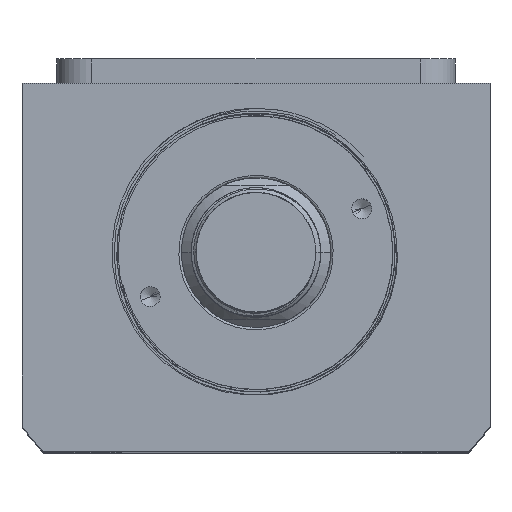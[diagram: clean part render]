
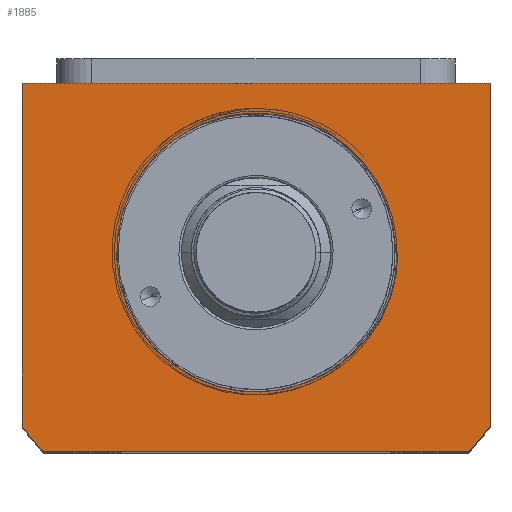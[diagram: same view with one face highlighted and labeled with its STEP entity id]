
A CAD part, top view. The second image highlights one B-rep face of the part: STEP entity #1885.
In plain terms, the highlighted planar face has unit normal (0, 0, 1).
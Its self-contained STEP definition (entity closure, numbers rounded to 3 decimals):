
#5 = CARTESIAN_POINT ( 'NONE',  ( 24.898, -13.504, 75. ) ) ;
#387 = CIRCLE ( 'NONE', #11522, 58.5 ) ;
#429 = ORIENTED_EDGE ( 'NONE', *, *, #2727, .T. ) ;
#462 = EDGE_CURVE ( 'NONE', #6340, #925, #7256, .T. ) ;
#925 = VERTEX_POINT ( 'NONE', #1609 ) ;
#1097 = CARTESIAN_POINT ( 'NONE',  ( 0., 0., 75. ) ) ;
#1311 = CARTESIAN_POINT ( 'NONE',  ( 15.3, -23.593, 75. ) ) ;
#1431 = ORIENTED_EDGE ( 'NONE', *, *, #16345, .F. ) ;
#1609 = CARTESIAN_POINT ( 'NONE',  ( -47., 34., 75. ) ) ;
#1779 = CARTESIAN_POINT ( 'NONE',  ( 28., 0., 75. ) ) ;
#1885 = ADVANCED_FACE ( 'NONE', ( #17046, #8631 ), #4921, .T. ) ;
#2266 = CARTESIAN_POINT ( 'NONE',  ( 47., -34.832, 75. ) ) ;
#2357 = EDGE_CURVE ( 'NONE', #17658, #16014, #14299, .T. ) ;
#2514 = CARTESIAN_POINT ( 'NONE',  ( 47., 34., 75. ) ) ;
#2693 = CARTESIAN_POINT ( 'NONE',  ( -47., 34., 75. ) ) ;
#2727 = EDGE_CURVE ( 'NONE', #925, #11358, #5789, .T. ) ;
#2851 = CARTESIAN_POINT ( 'NONE',  ( 10.89, -25.816, 75. ) ) ;
#2913 = CARTESIAN_POINT ( 'NONE',  ( 27.555, -6.99, 75. ) ) ;
#3224 = AXIS2_PLACEMENT_3D ( 'NONE', #17056, #17191, #3704 ) ;
#3226 = ORIENTED_EDGE ( 'NONE', *, *, #9076, .T. ) ;
#3389 = CARTESIAN_POINT ( 'NONE',  ( -47., -34.832, 75. ) ) ;
#3441 = CARTESIAN_POINT ( 'NONE',  ( 42.688, -40., 75. ) ) ;
#3704 = DIRECTION ( 'NONE',  ( 1., 0., 0. ) ) ;
#3953 = VECTOR ( 'NONE', #14638, 1000. ) ;
#4137 = DIRECTION ( 'NONE',  ( 0., 0., 1. ) ) ;
#4166 = EDGE_CURVE ( 'NONE', #10081, #6340, #11636, .T. ) ;
#4204 = DIRECTION ( 'NONE',  ( 1., 0., 0. ) ) ;
#4496 = VERTEX_POINT ( 'NONE', #12331 ) ;
#4510 = CARTESIAN_POINT ( 'NONE',  ( 0., 0., 75. ) ) ;
#4921 = PLANE ( 'NONE',  #3224 ) ;
#5153 = ORIENTED_EDGE ( 'NONE', *, *, #12049, .T. ) ;
#5613 = CARTESIAN_POINT ( 'NONE',  ( 28.485, -0.71, 75. ) ) ;
#5789 = LINE ( 'NONE', #13562, #7915 ) ;
#5995 = CARTESIAN_POINT ( 'NONE',  ( 16.467, -22.819, 75. ) ) ;
#6317 = CIRCLE ( 'NONE', #13503, 28. ) ;
#6340 = VERTEX_POINT ( 'NONE', #2514 ) ;
#6570 = VECTOR ( 'NONE', #12481, 1000. ) ;
#6636 = DIRECTION ( 'NONE',  ( 0., 1., 0. ) ) ;
#7136 = CARTESIAN_POINT ( 'NONE',  ( 28.449, -1.419, 75. ) ) ;
#7256 = LINE ( 'NONE', #2693, #3953 ) ;
#7414 = ORIENTED_EDGE ( 'NONE', *, *, #4166, .T. ) ;
#7492 = DIRECTION ( 'NONE',  ( 0., 0., 1. ) ) ;
#7516 = CARTESIAN_POINT ( 'NONE',  ( 11.542, -25.544, 75. ) ) ;
#7866 = LINE ( 'NONE', #16981, #10910 ) ;
#7915 = VECTOR ( 'NONE', #15074, 1000. ) ;
#7970 = DIRECTION ( 'NONE',  ( -1., 0., 0. ) ) ;
#8114 = EDGE_CURVE ( 'NONE', #4496, #18858, #12419, .T. ) ;
#8349 = CARTESIAN_POINT ( 'NONE',  ( 42.688, -40., 75. ) ) ;
#8408 = CIRCLE ( 'NONE', #17037, 58.5 ) ;
#8574 = ORIENTED_EDGE ( 'NONE', *, *, #2357, .T. ) ;
#8631 = FACE_OUTER_BOUND ( 'NONE', #10105, .T. ) ;
#8903 = CARTESIAN_POINT ( 'NONE',  ( 13.459, -24.624, 75. ) ) ;
#9002 = DIRECTION ( 'NONE',  ( 1., 0., 0. ) ) ;
#9065 = CARTESIAN_POINT ( 'NONE',  ( 28.495, 0., 75. ) ) ;
#9076 = EDGE_CURVE ( 'NONE', #16014, #10854, #6317, .T. ) ;
#9724 = CARTESIAN_POINT ( 'NONE',  ( 47., 34., 75. ) ) ;
#10081 = VERTEX_POINT ( 'NONE', #2266 ) ;
#10105 = EDGE_LOOP ( 'NONE', ( #10433, #429, #13227, #11010, #5153, #7414 ) ) ;
#10272 = CARTESIAN_POINT ( 'NONE',  ( 10.232, -26.064, 75. ) ) ;
#10414 = CARTESIAN_POINT ( 'NONE',  ( 20.224, -19.631, 75. ) ) ;
#10433 = ORIENTED_EDGE ( 'NONE', *, *, #462, .T. ) ;
#10478 = CARTESIAN_POINT ( 'NONE',  ( 26.694, -9.657, 75. ) ) ;
#10499 = VECTOR ( 'NONE', #6636, 1000. ) ;
#10544 = CARTESIAN_POINT ( 'NONE',  ( 21.684, -18.094, 75. ) ) ;
#10854 = VERTEX_POINT ( 'NONE', #1779 ) ;
#10910 = VECTOR ( 'NONE', #7970, 1000. ) ;
#11010 = ORIENTED_EDGE ( 'NONE', *, *, #8114, .T. ) ;
#11358 = VERTEX_POINT ( 'NONE', #3389 ) ;
#11522 = AXIS2_PLACEMENT_3D ( 'NONE', #1097, #4137, #4204 ) ;
#11636 = LINE ( 'NONE', #9724, #10499 ) ;
#11841 = CARTESIAN_POINT ( 'NONE',  ( 28.233, -3.538, 75. ) ) ;
#12035 = CARTESIAN_POINT ( 'NONE',  ( 22.571, -17.007, 75. ) ) ;
#12049 = EDGE_CURVE ( 'NONE', #18858, #10081, #387, .T. ) ;
#12331 = CARTESIAN_POINT ( 'NONE',  ( -42.688, -40., 75. ) ) ;
#12413 = EDGE_CURVE ( 'NONE', #11358, #4496, #8408, .T. ) ;
#12419 = LINE ( 'NONE', #3441, #6570 ) ;
#12481 = DIRECTION ( 'NONE',  ( 1., 0., 0. ) ) ;
#13227 = ORIENTED_EDGE ( 'NONE', *, *, #12413, .T. ) ;
#13293 = CARTESIAN_POINT ( 'NONE',  ( 18.129, -21.529, 75. ) ) ;
#13503 = AXIS2_PLACEMENT_3D ( 'NONE', #16106, #14670, #19191 ) ;
#13562 = CARTESIAN_POINT ( 'NONE',  ( -47., -34.832, 75. ) ) ;
#14299 = B_SPLINE_CURVE_WITH_KNOTS ( 'NONE', 3,
 ( #17544, #5613, #7136, #17996, #11841, #19379, #2913, #10478, #14999, #5, #16477, #12035, #10544, #10414, #19312, #14801, #13293, #5995, #1311, #8903, #14867, #7516, #2851, #19443 ),
 .UNSPECIFIED., .F., .F.,
 ( 4, 2, 2, 2, 2, 2, 2, 2, 2, 2, 2, 4 ),
 ( 0., 0.002, 0.004, 0.009, 0.013, 0.017, 0.021, 0.023, 0.026, 0.03, 0.032, 0.034 ),
 .UNSPECIFIED. ) ;
#14638 = DIRECTION ( 'NONE',  ( -1., 0., 0. ) ) ;
#14670 = DIRECTION ( 'NONE',  ( 0., 0., -1. ) ) ;
#14801 = CARTESIAN_POINT ( 'NONE',  ( 18.667, -21.077, 75. ) ) ;
#14867 = CARTESIAN_POINT ( 'NONE',  ( 12.831, -24.945, 75. ) ) ;
#14999 = CARTESIAN_POINT ( 'NONE',  ( 26.163, -10.961, 75. ) ) ;
#15074 = DIRECTION ( 'NONE',  ( 0., -1., 0. ) ) ;
#16014 = VERTEX_POINT ( 'NONE', #10272 ) ;
#16106 = CARTESIAN_POINT ( 'NONE',  ( 0., 0., 75. ) ) ;
#16345 = EDGE_CURVE ( 'NONE', #17658, #10854, #7866, .T. ) ;
#16477 = CARTESIAN_POINT ( 'NONE',  ( 24.178, -14.712, 75. ) ) ;
#16528 = EDGE_LOOP ( 'NONE', ( #1431, #8574, #3226 ) ) ;
#16981 = CARTESIAN_POINT ( 'NONE',  ( 0., 0., 75. ) ) ;
#17037 = AXIS2_PLACEMENT_3D ( 'NONE', #4510, #7492, #9002 ) ;
#17046 = FACE_BOUND ( 'NONE', #16528, .T. ) ;
#17056 = CARTESIAN_POINT ( 'NONE',  ( 0., 0., 75. ) ) ;
#17191 = DIRECTION ( 'NONE',  ( 0., 0., 1. ) ) ;
#17544 = CARTESIAN_POINT ( 'NONE',  ( 28.495, 0., 75. ) ) ;
#17658 = VERTEX_POINT ( 'NONE', #9065 ) ;
#17996 = CARTESIAN_POINT ( 'NONE',  ( 28.323, -2.832, 75. ) ) ;
#18858 = VERTEX_POINT ( 'NONE', #8349 ) ;
#19191 = DIRECTION ( 'NONE',  ( 1., 0., 0. ) ) ;
#19312 = CARTESIAN_POINT ( 'NONE',  ( 19.714, -20.129, 75. ) ) ;
#19379 = CARTESIAN_POINT ( 'NONE',  ( 27.887, -5.628, 75. ) ) ;
#19443 = CARTESIAN_POINT ( 'NONE',  ( 10.232, -26.064, 75. ) ) ;
